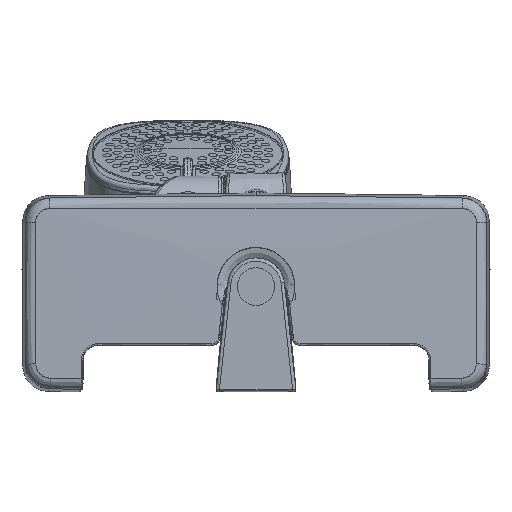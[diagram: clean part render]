
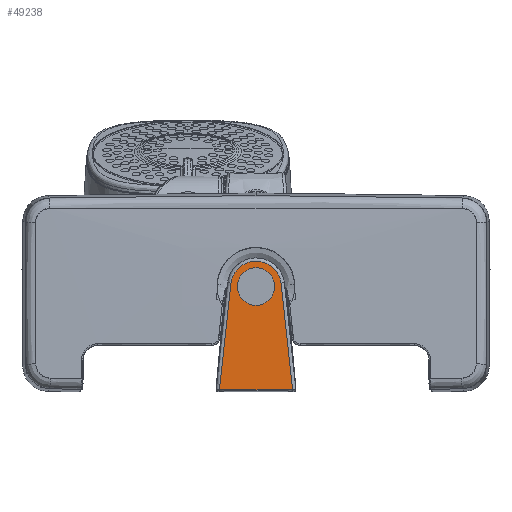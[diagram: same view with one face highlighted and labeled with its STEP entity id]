
A CAD part, front view. The second image highlights one B-rep face of the part: STEP entity #49238.
In plain terms, the highlighted planar face has unit normal (0, -1, 0.009).
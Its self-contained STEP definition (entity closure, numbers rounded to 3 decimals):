
#1468 = B_SPLINE_CURVE_WITH_KNOTS ( 'NONE', 3,
 ( #16475, #60277, #26274, #60481, #31169, #2010, #36099 ),
 .UNSPECIFIED., .F., .F.,
 ( 4, 1, 1, 1, 4 ),
 ( 0.325, 0.369, 0.413, 0.456, 0.5 ),
 .UNSPECIFIED. ) ;
#1521 = CARTESIAN_POINT ( 'NONE',  ( 117.583, 160.188, 946.606 ) ) ;
#1535 = VERTEX_POINT ( 'NONE', #61853 ) ;
#1720 = CARTESIAN_POINT ( 'NONE',  ( 123.498, 160.188, 946.604 ) ) ;
#2010 = CARTESIAN_POINT ( 'NONE',  ( 117.091, 160.188, 946.606 ) ) ;
#3349 = CARTESIAN_POINT ( 'NONE',  ( 123.498, 160.188, 946.604 ) ) ;
#3461 = CARTESIAN_POINT ( 'NONE',  ( 100.254, 160.188, 946.601 ) ) ;
#6092 = EDGE_CURVE ( 'NONE', #38610, #41814, #51739, .T. ) ;
#7227 = LINE ( 'NONE', #47041, #57647 ) ;
#7229 = CARTESIAN_POINT ( 'NONE',  ( 134.913, 160.188, 946.601 ) ) ;
#7737 = B_SPLINE_CURVE_WITH_KNOTS ( 'NONE', 3,
 ( #11703, #55884, #36426, #7229 ),
 .UNSPECIFIED., .F., .F.,
 ( 4, 4 ),
 ( 0., 0. ),
 .UNSPECIFIED. ) ;
#8018 = ORIENTED_EDGE ( 'NONE', *, *, #53135, .T. ) ;
#8250 = DIRECTION ( 'NONE',  ( 1., 0., 0. ) ) ;
#9087 = VERTEX_POINT ( 'NONE', #52202 ) ;
#9445 = VERTEX_POINT ( 'NONE', #49810 ) ;
#10758 = EDGE_CURVE ( 'NONE', #15827, #40601, #38367, .T. ) ;
#11703 = CARTESIAN_POINT ( 'NONE',  ( 134.519, 160.188, 946.601 ) ) ;
#12415 = CARTESIAN_POINT ( 'NONE',  ( 134.913, 160.188, 946.601 ) ) ;
#13522 = DIRECTION ( 'NONE',  ( 1., 0., 0. ) ) ;
#13791 = DIRECTION ( 'NONE',  ( 0., 1., -0.009 ) ) ;
#13822 = EDGE_CURVE ( 'NONE', #1535, #38610, #33475, .T. ) ;
#15827 = VERTEX_POINT ( 'NONE', #28047 ) ;
#16475 = CARTESIAN_POINT ( 'NONE',  ( 111.669, 160.188, 946.604 ) ) ;
#17312 = CARTESIAN_POINT ( 'NONE',  ( 132.021, 160.485, 980.597 ) ) ;
#18288 = CARTESIAN_POINT ( 'NONE',  ( 108.49, 160.789, 1015.44 ) ) ;
#20505 = CARTESIAN_POINT ( 'NONE',  ( 101.318, 160.336, 963.631 ) ) ;
#21473 = AXIS2_PLACEMENT_3D ( 'NONE', #33181, #13791, #47942 ) ;
#21599 = EDGE_CURVE ( 'NONE', #25118, #9445, #1468, .T. ) ;
#23215 = CARTESIAN_POINT ( 'NONE',  ( 105.733, 160.632, 997.463 ) ) ;
#25118 = VERTEX_POINT ( 'NONE', #50840 ) ;
#25187 = B_SPLINE_CURVE_WITH_KNOTS ( 'NONE', 3,
 ( #1521, #40471, #55273, #25985, #60193, #30881, #1720 ),
 .UNSPECIFIED., .F., .F.,
 ( 4, 1, 1, 1, 4 ),
 ( 0.5, 0.544, 0.587, 0.631, 0.675 ),
 .UNSPECIFIED. ) ;
#25385 = VECTOR ( 'NONE', #8250, 1000. ) ;
#25899 = B_SPLINE_CURVE_WITH_KNOTS ( 'NONE', 3,
 ( #43865, #48787, #58614, #29333 ),
 .UNSPECIFIED., .F., .F.,
 ( 4, 4 ),
 ( 0., 0. ),
 .UNSPECIFIED. ) ;
#25985 = CARTESIAN_POINT ( 'NONE',  ( 120.54, 160.188, 946.605 ) ) ;
#26274 = CARTESIAN_POINT ( 'NONE',  ( 113.148, 160.188, 946.605 ) ) ;
#27267 = ORIENTED_EDGE ( 'NONE', *, *, #54409, .T. ) ;
#28047 = CARTESIAN_POINT ( 'NONE',  ( 123.498, 160.188, 946.604 ) ) ;
#28272 = PLANE ( 'NONE',  #21473 ) ;
#29333 = CARTESIAN_POINT ( 'NONE',  ( 100.648, 160.188, 946.601 ) ) ;
#30881 = CARTESIAN_POINT ( 'NONE',  ( 123.004, 160.188, 946.604 ) ) ;
#30899 = ORIENTED_EDGE ( 'NONE', *, *, #6092, .T. ) ;
#31169 = CARTESIAN_POINT ( 'NONE',  ( 116.106, 160.188, 946.605 ) ) ;
#33138 = EDGE_CURVE ( 'NONE', #43899, #9087, #25899, .T. ) ;
#33181 = CARTESIAN_POINT ( 'NONE',  ( 117.583, 160.179, 945.632 ) ) ;
#33475 =( BOUNDED_CURVE ( )  B_SPLINE_CURVE ( 3, ( #12415, #46555, #17312, #51458 ),
 .UNSPECIFIED., .F., .T. ) 
 B_SPLINE_CURVE_WITH_KNOTS ( ( 4, 4 ),
 ( 1.633, 1.723 ),
 .UNSPECIFIED. ) 
 CURVE ( )  GEOMETRIC_REPRESENTATION_ITEM ( )  RATIONAL_B_SPLINE_CURVE ( ( 1., 0.999, 0.999, 1. ) ) 
 REPRESENTATION_ITEM ( '' )  );
#34470 = ORIENTED_EDGE ( 'NONE', *, *, #10758, .T. ) ;
#35790 = CARTESIAN_POINT ( 'NONE',  ( 134.519, 160.188, 946.601 ) ) ;
#36099 = CARTESIAN_POINT ( 'NONE',  ( 117.583, 160.188, 946.606 ) ) ;
#36426 = CARTESIAN_POINT ( 'NONE',  ( 134.782, 160.188, 946.601 ) ) ;
#36909 = EDGE_CURVE ( 'NONE', #9087, #25118, #7227, .T. ) ;
#37861 = ORIENTED_EDGE ( 'NONE', *, *, #49897, .T. ) ;
#38367 = LINE ( 'NONE', #3349, #25385 ) ;
#38610 = VERTEX_POINT ( 'NONE', #42301 ) ;
#39204 =( BOUNDED_CURVE ( )  B_SPLINE_CURVE ( 3, ( #39893, #49749, #20505, #54677 ),
 .UNSPECIFIED., .F., .F. ) 
 B_SPLINE_CURVE_WITH_KNOTS ( ( 4, 4 ),
 ( 4.56, 4.65 ),
 .UNSPECIFIED. ) 
 CURVE ( )  GEOMETRIC_REPRESENTATION_ITEM ( )  RATIONAL_B_SPLINE_CURVE ( ( 1., 0.999, 0.999, 1. ) ) 
 REPRESENTATION_ITEM ( '' )  );
#39893 = CARTESIAN_POINT ( 'NONE',  ( 105.733, 160.632, 997.463 ) ) ;
#40471 = CARTESIAN_POINT ( 'NONE',  ( 118.077, 160.188, 946.606 ) ) ;
#40601 = VERTEX_POINT ( 'NONE', #35790 ) ;
#41814 = VERTEX_POINT ( 'NONE', #61588 ) ;
#42301 = CARTESIAN_POINT ( 'NONE',  ( 129.434, 160.632, 997.463 ) ) ;
#43262 = ORIENTED_EDGE ( 'NONE', *, *, #13822, .T. ) ;
#43865 = CARTESIAN_POINT ( 'NONE',  ( 100.254, 160.188, 946.601 ) ) ;
#43899 = VERTEX_POINT ( 'NONE', #3461 ) ;
#46555 = CARTESIAN_POINT ( 'NONE',  ( 133.849, 160.336, 963.631 ) ) ;
#46848 = ORIENTED_EDGE ( 'NONE', *, *, #33138, .T. ) ;
#47041 = CARTESIAN_POINT ( 'NONE',  ( 100.648, 160.188, 946.601 ) ) ;
#47942 = DIRECTION ( 'NONE',  ( 0., 0.009, 1. ) ) ;
#48787 = CARTESIAN_POINT ( 'NONE',  ( 100.385, 160.188, 946.601 ) ) ;
#49057 = EDGE_LOOP ( 'NONE', ( #8018, #34470, #27267, #43262, #30899, #37861, #46848, #50683, #50366 ) ) ;
#49238 = ADVANCED_FACE ( 'NONE', ( #56598 ), #28272, .F. ) ;
#49749 = CARTESIAN_POINT ( 'NONE',  ( 103.146, 160.485, 980.597 ) ) ;
#49810 = CARTESIAN_POINT ( 'NONE',  ( 117.583, 160.188, 946.606 ) ) ;
#49897 = EDGE_CURVE ( 'NONE', #41814, #43899, #39204, .T. ) ;
#50366 = ORIENTED_EDGE ( 'NONE', *, *, #21599, .T. ) ;
#50683 = ORIENTED_EDGE ( 'NONE', *, *, #36909, .T. ) ;
#50840 = CARTESIAN_POINT ( 'NONE',  ( 111.669, 160.188, 946.604 ) ) ;
#51458 = CARTESIAN_POINT ( 'NONE',  ( 129.434, 160.632, 997.463 ) ) ;
#51739 =( BOUNDED_CURVE ( )  B_SPLINE_CURVE ( 3, ( #62072, #52453, #18288, #23215 ),
 .UNSPECIFIED., .F., .T. ) 
 B_SPLINE_CURVE_WITH_KNOTS ( ( 4, 4 ),
 ( 1.723, 4.56 ),
 .UNSPECIFIED. ) 
 CURVE ( )  GEOMETRIC_REPRESENTATION_ITEM ( )  RATIONAL_B_SPLINE_CURVE ( ( 1., 0.434, 0.434, 1. ) ) 
 REPRESENTATION_ITEM ( '' )  );
#52202 = CARTESIAN_POINT ( 'NONE',  ( 100.648, 160.188, 946.601 ) ) ;
#52453 = CARTESIAN_POINT ( 'NONE',  ( 126.677, 160.789, 1015.44 ) ) ;
#53135 = EDGE_CURVE ( 'NONE', #9445, #15827, #25187, .T. ) ;
#54409 = EDGE_CURVE ( 'NONE', #40601, #1535, #7737, .T. ) ;
#54677 = CARTESIAN_POINT ( 'NONE',  ( 100.254, 160.188, 946.601 ) ) ;
#55273 = CARTESIAN_POINT ( 'NONE',  ( 119.062, 160.188, 946.605 ) ) ;
#55884 = CARTESIAN_POINT ( 'NONE',  ( 134.65, 160.188, 946.601 ) ) ;
#56598 = FACE_OUTER_BOUND ( 'NONE', #49057, .T. ) ;
#57647 = VECTOR ( 'NONE', #13522, 1000. ) ;
#58614 = CARTESIAN_POINT ( 'NONE',  ( 100.516, 160.188, 946.601 ) ) ;
#60193 = CARTESIAN_POINT ( 'NONE',  ( 122.018, 160.188, 946.605 ) ) ;
#60277 = CARTESIAN_POINT ( 'NONE',  ( 112.162, 160.188, 946.604 ) ) ;
#60481 = CARTESIAN_POINT ( 'NONE',  ( 114.627, 160.188, 946.605 ) ) ;
#61588 = CARTESIAN_POINT ( 'NONE',  ( 105.733, 160.632, 997.463 ) ) ;
#61853 = CARTESIAN_POINT ( 'NONE',  ( 134.913, 160.188, 946.601 ) ) ;
#62072 = CARTESIAN_POINT ( 'NONE',  ( 129.434, 160.632, 997.463 ) ) ;
